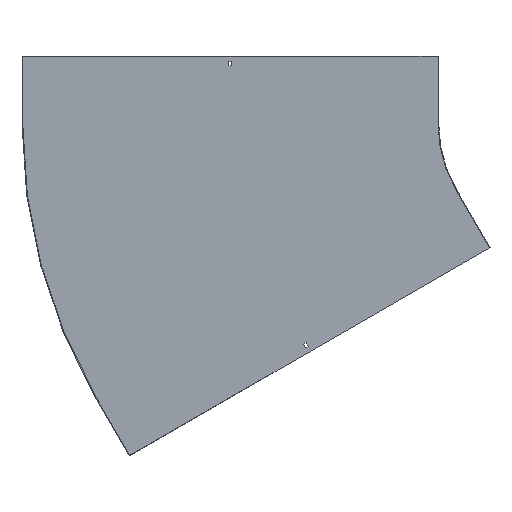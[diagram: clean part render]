
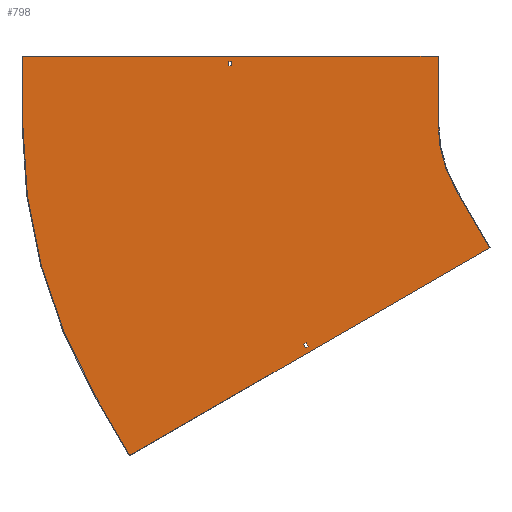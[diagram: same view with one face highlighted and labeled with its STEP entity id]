
A CAD part, front view. The second image highlights one B-rep face of the part: STEP entity #798.
In plain terms, the highlighted planar face has unit normal (0, -1, 0).
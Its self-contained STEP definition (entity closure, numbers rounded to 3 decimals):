
#1 = CARTESIAN_POINT ( 'NONE',  ( 64.5, -1.5, -111.717 ) ) ;
#3 = FACE_BOUND ( 'NONE', #95, .T. ) ;
#17 = EDGE_CURVE ( 'NONE', #428, #645, #740, .T. ) ;
#24 = EDGE_CURVE ( 'NONE', #406, #625, #205, .T. ) ;
#25 = CARTESIAN_POINT ( 'NONE',  ( -646.704, -1.5, -373.375 ) ) ;
#28 = DIRECTION ( 'NONE',  ( -0.5, 0., 0.866 ) ) ;
#40 = ORIENTED_EDGE ( 'NONE', *, *, #340, .F. ) ;
#46 = DIRECTION ( 'NONE',  ( 0., 0., -1. ) ) ;
#63 = ORIENTED_EDGE ( 'NONE', *, *, #17, .F. ) ;
#64 = CARTESIAN_POINT ( 'NONE',  ( -290., -1.5, 0. ) ) ;
#74 = LINE ( 'NONE', #849, #199 ) ;
#77 = VERTEX_POINT ( 'NONE', #291 ) ;
#89 = LINE ( 'NONE', #751, #801 ) ;
#95 = EDGE_LOOP ( 'NONE', ( #265, #791, #419, #178 ) ) ;
#99 = DIRECTION ( 'NONE',  ( 0., -1., 0. ) ) ;
#103 = CARTESIAN_POINT ( 'NONE',  ( -583.334, -1.5, -496.137 ) ) ;
#109 = AXIS2_PLACEMENT_3D ( 'NONE', #138, #405, #123 ) ;
#110 = LINE ( 'NONE', #503, #549 ) ;
#123 = DIRECTION ( 'NONE',  ( 0., 0., -1. ) ) ;
#131 = CARTESIAN_POINT ( 'NONE',  ( -1211.5, -1.5, 150. ) ) ;
#134 = PLANE ( 'NONE',  #844 ) ;
#138 = CARTESIAN_POINT ( 'NONE',  ( 0., -1.5, 0. ) ) ;
#141 = DIRECTION ( 'NONE',  ( 1., 0., 0. ) ) ;
#144 = DIRECTION ( 'NONE',  ( 0.5, 0., -0.866 ) ) ;
#147 = DIRECTION ( 'NONE',  ( -0.5, 0., 0.866 ) ) ;
#150 = DIRECTION ( 'NONE',  ( 0., 0., -1. ) ) ;
#161 = LINE ( 'NONE', #25, #344 ) ;
#166 = DIRECTION ( 'NONE',  ( 0., 0., -1. ) ) ;
#178 = ORIENTED_EDGE ( 'NONE', *, *, #180, .T. ) ;
#180 = EDGE_CURVE ( 'NONE', #726, #406, #762, .T. ) ;
#182 = VECTOR ( 'NONE', #166, 1000. ) ;
#199 = VECTOR ( 'NONE', #512, 1000. ) ;
#200 = LINE ( 'NONE', #131, #607 ) ;
#201 = CARTESIAN_POINT ( 'NONE',  ( -174.848, -1.5, -274.154 ) ) ;
#205 = LINE ( 'NONE', #459, #664 ) ;
#206 = DIRECTION ( 'NONE',  ( 0., -1., 0. ) ) ;
#208 = CARTESIAN_POINT ( 'NONE',  ( -587.834, -1.5, -488.342 ) ) ;
#215 = VERTEX_POINT ( 'NONE', #310 ) ;
#219 = EDGE_CURVE ( 'NONE', #77, #696, #513, .T. ) ;
#224 = CARTESIAN_POINT ( 'NONE',  ( -1047.891, -1.5, -605. ) ) ;
#225 = CARTESIAN_POINT ( 'NONE',  ( 0., -1.5, 0. ) ) ;
#234 = VERTEX_POINT ( 'NONE', #103 ) ;
#255 = DIRECTION ( 'NONE',  ( 0., 0., 1. ) ) ;
#257 = EDGE_LOOP ( 'NONE', ( #611, #687, #502, #574, #63, #472, #327, #723 ) ) ;
#258 = DIRECTION ( 'NONE',  ( 0., 0., -1. ) ) ;
#262 = LINE ( 'NONE', #672, #399 ) ;
#265 = ORIENTED_EDGE ( 'NONE', *, *, #24, .T. ) ;
#291 = CARTESIAN_POINT ( 'NONE',  ( -290., -1.5, 150. ) ) ;
#310 = CARTESIAN_POINT ( 'NONE',  ( -577.704, -1.5, -492.887 ) ) ;
#311 = VERTEX_POINT ( 'NONE', #663 ) ;
#313 = CARTESIAN_POINT ( 'NONE',  ( -251.147, -1.5, -145. ) ) ;
#317 = VECTOR ( 'NONE', #783, 1000. ) ;
#320 = VERTEX_POINT ( 'NONE', #208 ) ;
#325 = LINE ( 'NONE', #400, #564 ) ;
#327 = ORIENTED_EDGE ( 'NONE', *, *, #529, .F. ) ;
#333 = DIRECTION ( 'NONE',  ( 1., 0., 0. ) ) ;
#334 = FACE_OUTER_BOUND ( 'NONE', #257, .T. ) ;
#340 = EDGE_CURVE ( 'NONE', #311, #320, #736, .T. ) ;
#344 = VECTOR ( 'NONE', #28, 1000. ) ;
#349 = EDGE_CURVE ( 'NONE', #530, #77, #200, .T. ) ;
#378 = CARTESIAN_POINT ( 'NONE',  ( -972.891, -1.5, -734.904 ) ) ;
#379 = CARTESIAN_POINT ( 'NONE',  ( -753.25, -1.5, 0. ) ) ;
#381 = EDGE_CURVE ( 'NONE', #645, #821, #555, .T. ) ;
#388 = EDGE_CURVE ( 'NONE', #776, #530, #89, .T. ) ;
#399 = VECTOR ( 'NONE', #524, 1000. ) ;
#400 = CARTESIAN_POINT ( 'NONE',  ( -652.334, -1.5, -376.625 ) ) ;
#405 = DIRECTION ( 'NONE',  ( 0., 1., 0. ) ) ;
#406 = VERTEX_POINT ( 'NONE', #424 ) ;
#419 = ORIENTED_EDGE ( 'NONE', *, *, #771, .T. ) ;
#424 = CARTESIAN_POINT ( 'NONE',  ( -753.25, -1.5, 138. ) ) ;
#428 = VERTEX_POINT ( 'NONE', #623 ) ;
#435 = ORIENTED_EDGE ( 'NONE', *, *, #769, .F. ) ;
#448 = CARTESIAN_POINT ( 'NONE',  ( -753.25, -1.5, 129. ) ) ;
#459 = CARTESIAN_POINT ( 'NONE',  ( 0., -1.5, 138. ) ) ;
#463 = EDGE_CURVE ( 'NONE', #215, #311, #161, .T. ) ;
#472 = ORIENTED_EDGE ( 'NONE', *, *, #679, .F. ) ;
#497 = DIRECTION ( 'NONE',  ( 0.866, 0., 0.5 ) ) ;
#501 = CARTESIAN_POINT ( 'NONE',  ( -290., -1.5, 150. ) ) ;
#502 = ORIENTED_EDGE ( 'NONE', *, *, #738, .F. ) ;
#503 = CARTESIAN_POINT ( 'NONE',  ( 69., -1.5, -119.512 ) ) ;
#507 = CIRCLE ( 'NONE', #109, 1210. ) ;
#512 = DIRECTION ( 'NONE',  ( -1., 0., 0. ) ) ;
#513 = LINE ( 'NONE', #501, #577 ) ;
#524 = DIRECTION ( 'NONE',  ( 0.5, 0., -0.866 ) ) ;
#529 = EDGE_CURVE ( 'NONE', #696, #584, #745, .T. ) ;
#530 = VERTEX_POINT ( 'NONE', #682 ) ;
#547 = VECTOR ( 'NONE', #255, 1000. ) ;
#549 = VECTOR ( 'NONE', #497, 1000. ) ;
#555 = LINE ( 'NONE', #739, #636 ) ;
#564 = VECTOR ( 'NONE', #144, 1000. ) ;
#574 = ORIENTED_EDGE ( 'NONE', *, *, #381, .F. ) ;
#576 = EDGE_CURVE ( 'NONE', #234, #215, #110, .T. ) ;
#577 = VECTOR ( 'NONE', #46, 1000. ) ;
#579 = AXIS2_PLACEMENT_3D ( 'NONE', #225, #99, #150 ) ;
#584 = VERTEX_POINT ( 'NONE', #313 ) ;
#586 = CARTESIAN_POINT ( 'NONE',  ( 0., -1.5, 0. ) ) ;
#596 = EDGE_LOOP ( 'NONE', ( #660, #750, #435, #40 ) ) ;
#597 = LINE ( 'NONE', #863, #182 ) ;
#607 = VECTOR ( 'NONE', #141, 1000. ) ;
#608 = DIRECTION ( 'NONE',  ( 0., 0., 1. ) ) ;
#611 = ORIENTED_EDGE ( 'NONE', *, *, #349, .F. ) ;
#623 = CARTESIAN_POINT ( 'NONE',  ( -176.147, -1.5, -274.904 ) ) ;
#625 = VERTEX_POINT ( 'NONE', #761 ) ;
#636 = VECTOR ( 'NONE', #147, 1000. ) ;
#645 = VERTEX_POINT ( 'NONE', #378 ) ;
#660 = ORIENTED_EDGE ( 'NONE', *, *, #463, .F. ) ;
#663 = CARTESIAN_POINT ( 'NONE',  ( -582.204, -1.5, -485.092 ) ) ;
#664 = VECTOR ( 'NONE', #333, 1000. ) ;
#665 = VERTEX_POINT ( 'NONE', #697 ) ;
#672 = CARTESIAN_POINT ( 'NONE',  ( -251.147, -1.5, -145. ) ) ;
#679 = EDGE_CURVE ( 'NONE', #584, #428, #262, .T. ) ;
#682 = CARTESIAN_POINT ( 'NONE',  ( -1210., -1.5, 150. ) ) ;
#687 = ORIENTED_EDGE ( 'NONE', *, *, #388, .F. ) ;
#696 = VERTEX_POINT ( 'NONE', #64 ) ;
#697 = CARTESIAN_POINT ( 'NONE',  ( -746.75, -1.5, 129. ) ) ;
#723 = ORIENTED_EDGE ( 'NONE', *, *, #219, .F. ) ;
#726 = VERTEX_POINT ( 'NONE', #448 ) ;
#736 = LINE ( 'NONE', #1, #317 ) ;
#738 = EDGE_CURVE ( 'NONE', #821, #776, #507, .T. ) ;
#739 = CARTESIAN_POINT ( 'NONE',  ( -972.891, -1.5, -734.904 ) ) ;
#740 = LINE ( 'NONE', #201, #816 ) ;
#745 = CIRCLE ( 'NONE', #579, 290. ) ;
#750 = ORIENTED_EDGE ( 'NONE', *, *, #576, .F. ) ;
#751 = CARTESIAN_POINT ( 'NONE',  ( -1210., -1.5, 0. ) ) ;
#761 = CARTESIAN_POINT ( 'NONE',  ( -746.75, -1.5, 138. ) ) ;
#762 = LINE ( 'NONE', #379, #547 ) ;
#769 = EDGE_CURVE ( 'NONE', #320, #234, #325, .T. ) ;
#771 = EDGE_CURVE ( 'NONE', #665, #726, #74, .T. ) ;
#776 = VERTEX_POINT ( 'NONE', #792 ) ;
#783 = DIRECTION ( 'NONE',  ( -0.866, 0., -0.5 ) ) ;
#791 = ORIENTED_EDGE ( 'NONE', *, *, #811, .T. ) ;
#792 = CARTESIAN_POINT ( 'NONE',  ( -1210., -1.5, 0. ) ) ;
#798 = ADVANCED_FACE ( 'NONE', ( #858, #334, #3 ), #134, .T. ) ;
#801 = VECTOR ( 'NONE', #608, 1000. ) ;
#811 = EDGE_CURVE ( 'NONE', #625, #665, #597, .T. ) ;
#816 = VECTOR ( 'NONE', #855, 1000. ) ;
#821 = VERTEX_POINT ( 'NONE', #224 ) ;
#844 = AXIS2_PLACEMENT_3D ( 'NONE', #586, #206, #258 ) ;
#849 = CARTESIAN_POINT ( 'NONE',  ( 0., -1.5, 129. ) ) ;
#855 = DIRECTION ( 'NONE',  ( -0.866, 0., -0.5 ) ) ;
#858 = FACE_BOUND ( 'NONE', #596, .T. ) ;
#863 = CARTESIAN_POINT ( 'NONE',  ( -746.75, -1.5, 0. ) ) ;
